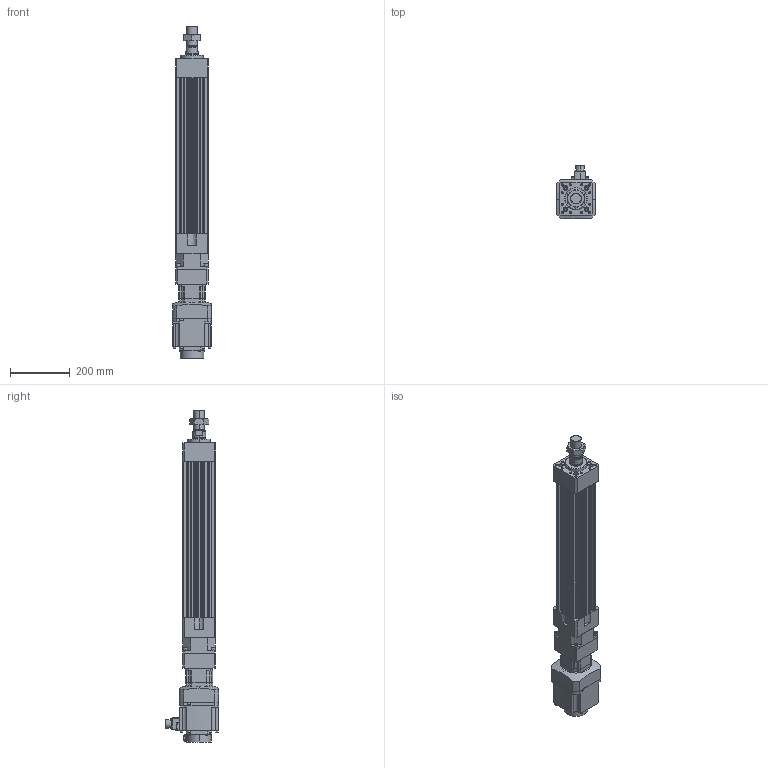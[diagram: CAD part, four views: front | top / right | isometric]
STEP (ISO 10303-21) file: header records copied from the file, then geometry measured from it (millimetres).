
FILE_DESCRIPTION (( 'STEP AP203' ), '1' );
FILE_NAME ('HES110NS(HS)-S350-W010G00-M.STEP', '2023-01-27T04:30:26', ( 'tms' ), ( '' ), 'SwSTEP 2.0', 'SolidWorks 2013', '' );
FILE_SCHEMA (( 'CONFIG_CONTROL_DESIGN' ));
Length unit declared in the file: millimetre
Products named in the file (8): HG-SR102; P0401301004; HES110-S350-G090; HES110 ROD M ST350; HES110NS(HS)-S350-W010G00-M; AB0901; M36X1.5P; AB090-003[HG-SR102B]
Assembly tree (7 placements, depth 3):
  HES110NS(HS)-S350-W010G00-M
    HES110-S350-G090
    HES110 ROD M ST350
    M36X1.5P
    AB090-003[HG-SR102B]
      AB0901
      P0401301004
    HG-SR102
Bounding box: 130 x 177.49 x 1108.5 mm (x, y, z)
Volume: 7104259.2 mm3; surface area: 955406.2 mm2
Topology: 4 solids, 15 shells, 1197 faces, 3018 edges, 1947 vertices
Faces by surface type: plane 550, cylinder 535, cone 100, bspline 8, torus 4
Entity records: 37761 total; most frequent: CARTESIAN_POINT 7330, DIRECTION 6511, ORIENTED_EDGE 5944, EDGE_CURVE 2982, AXIS2_PLACEMENT_3D 2399, VERTEX_POINT 1947, LINE 1713, VECTOR 1713
